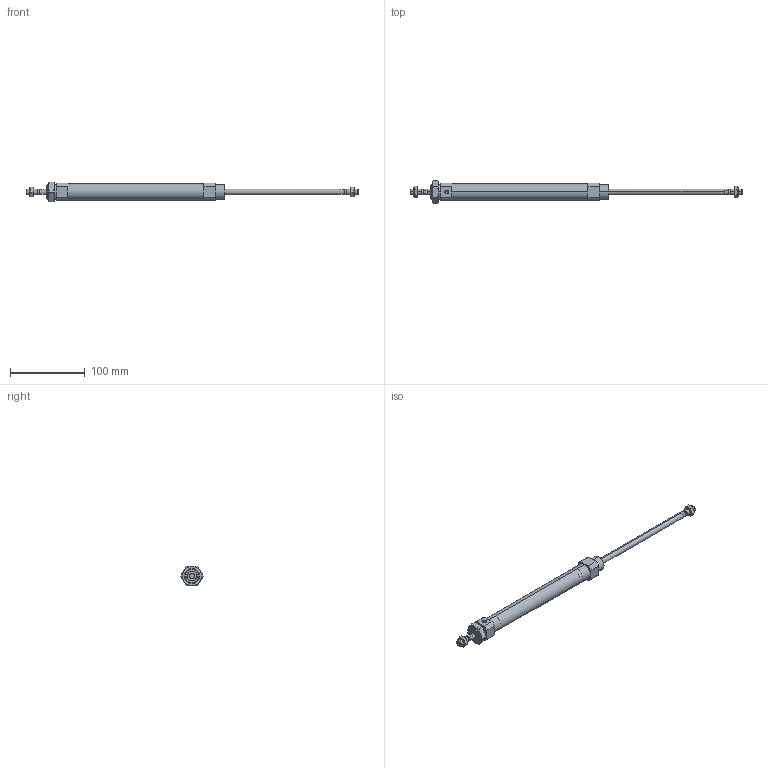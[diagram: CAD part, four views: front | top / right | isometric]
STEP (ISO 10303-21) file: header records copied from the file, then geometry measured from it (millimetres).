
FILE_DESCRIPTION (( 'STEP AP203' ), '1' );
FILE_NAME ('CSM2B20-150-P.STEP', '2020-07-20T15:29:52', ( '' ), ( '' ), 'SwSTEP 2.0', 'SolidWorks 2019', '' );
FILE_SCHEMA (( 'CONFIG_CONTROL_DESIGN' ));
Length unit declared in the file: millimetre
Products named in the file (1): CSM2B20-150-P
Bounding box: 444 x 30.02 x 26 mm (x, y, z)
Volume: 64060.3 mm3; surface area: 45164.3 mm2
Topology: 5 solids, 5 shells, 153 faces, 362 edges, 228 vertices
Faces by surface type: plane 62, cylinder 46, cone 45
Entity records: 5450 total; most frequent: CARTESIAN_POINT 1855, DIRECTION 741, ORIENTED_EDGE 720, EDGE_CURVE 360, AXIS2_PLACEMENT_3D 294, VERTEX_POINT 228, EDGE_LOOP 176, VECTOR 153
